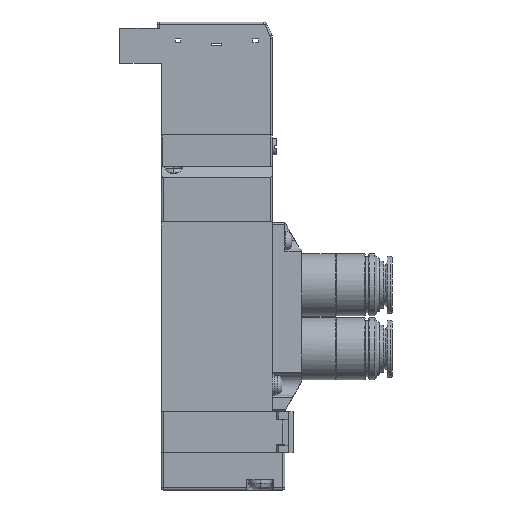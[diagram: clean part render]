
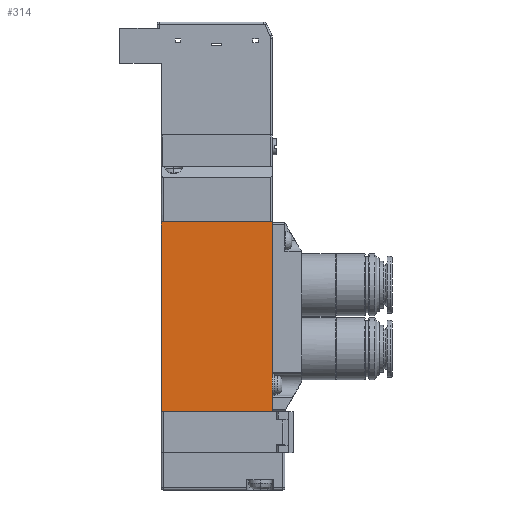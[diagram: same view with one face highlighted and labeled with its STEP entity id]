
A CAD part, left-side view. The second image highlights one B-rep face of the part: STEP entity #314.
In plain terms, the highlighted planar face has unit normal (-1, 0, 0).
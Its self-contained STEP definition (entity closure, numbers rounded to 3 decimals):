
#314=ADVANCED_FACE('',(#881),#880,.T.);
#880=PLANE('',#4941);
#881=FACE_OUTER_BOUND('',#4942,.T.);
#4938=CARTESIAN_POINT('',(-7.5,-29.7,-4.6));
#4939=DIRECTION('',(-1.,0.,0.));
#4940=DIRECTION('',(0.,0.,1.));
#4941=AXIS2_PLACEMENT_3D('',#4938,#4939,#4940);
#4942=EDGE_LOOP('',(#7779,#7780,#7781,#7782,#7783,#7784));
#7779=ORIENTED_EDGE('',*,*,#9801,.F.);
#7780=ORIENTED_EDGE('',*,*,#9802,.F.);
#7781=ORIENTED_EDGE('',*,*,#9803,.T.);
#7782=ORIENTED_EDGE('',*,*,#9798,.T.);
#7783=ORIENTED_EDGE('',*,*,#9804,.F.);
#7784=ORIENTED_EDGE('',*,*,#9739,.T.);
#9739=EDGE_CURVE('',#10814,#10815,#10816,.T.);
#9798=EDGE_CURVE('',#11220,#11212,#11221,.T.);
#9801=EDGE_CURVE('',#11240,#10815,#11241,.T.);
#9802=EDGE_CURVE('',#11247,#11240,#11248,.T.);
#9803=EDGE_CURVE('',#11247,#11220,#11254,.T.);
#9804=EDGE_CURVE('',#10814,#11212,#11260,.T.);
#10814=VERTEX_POINT('',#17528);
#10815=VERTEX_POINT('',#17529);
#10816=LINE('',#17530,#17531);
#11212=VERTEX_POINT('',#17753);
#11220=VERTEX_POINT('',#17758);
#11221=LINE('',#17759,#17760);
#11240=VERTEX_POINT('',#17769);
#11241=LINE('',#17770,#17771);
#11247=VERTEX_POINT('',#17773);
#11248=LINE('',#17774,#17775);
#11254=LINE('',#17777,#17778);
#11260=LINE('',#17780,#17781);
#17528=CARTESIAN_POINT('',(-7.5,-27.,4.839));
#17529=CARTESIAN_POINT('',(-7.5,-27.,8.161));
#17530=CARTESIAN_POINT('',(-7.5,-27.,4.839));
#17531=VECTOR('',#17532,3.323);
#17532=DIRECTION('',(0.,0.,1.));
#17753=CARTESIAN_POINT('',(-7.5,-27.,0.));
#17758=CARTESIAN_POINT('',(-7.5,0.,0.));
#17759=CARTESIAN_POINT('',(-7.5,0.,0.));
#17760=VECTOR('',#17761,27.);
#17761=DIRECTION('',(0.,-1.,0.));
#17769=CARTESIAN_POINT('',(-7.5,-27.,46.));
#17770=CARTESIAN_POINT('',(-7.5,-27.,46.));
#17771=VECTOR('',#17772,37.839);
#17772=DIRECTION('',(0.,0.,-1.));
#17773=CARTESIAN_POINT('',(-7.5,0.,46.));
#17774=CARTESIAN_POINT('',(-7.5,0.,46.));
#17775=VECTOR('',#17776,27.);
#17776=DIRECTION('',(0.,-1.,0.));
#17777=CARTESIAN_POINT('',(-7.5,0.,46.));
#17778=VECTOR('',#17779,46.);
#17779=DIRECTION('',(0.,0.,-1.));
#17780=CARTESIAN_POINT('',(-7.5,-27.,4.839));
#17781=VECTOR('',#17782,4.839);
#17782=DIRECTION('',(0.,0.,-1.));
